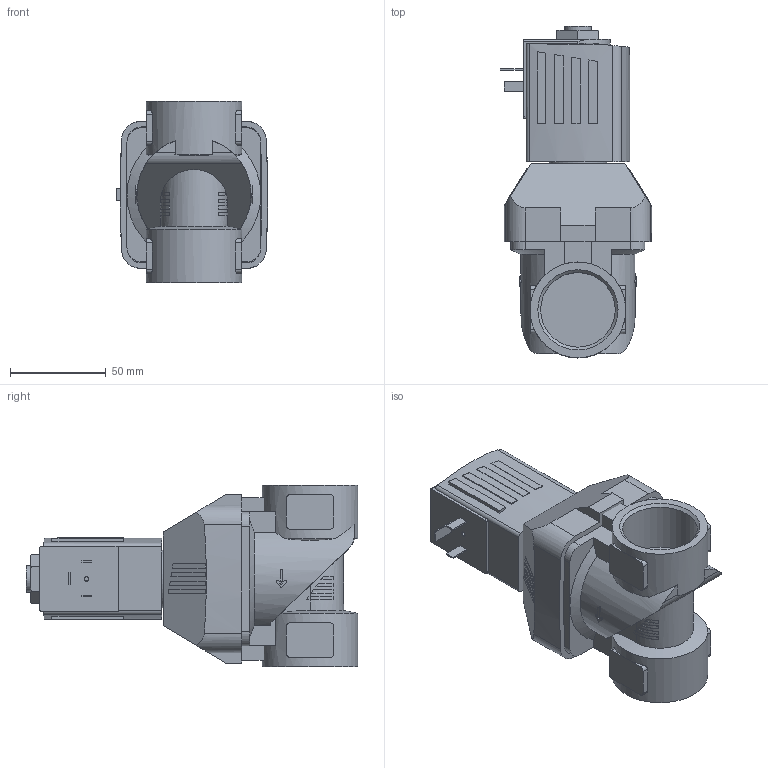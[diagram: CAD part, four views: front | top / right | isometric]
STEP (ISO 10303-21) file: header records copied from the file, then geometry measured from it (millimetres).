
FILE_DESCRIPTION( ( 'STEP AP214' ), '1' );
FILE_NAME( 'p:/temp/worker_29/temp/app_47_02018110115542181222190192d056f_000000_00_00_000000/format_0/6213-221729-2_2-Way-Solenoid-Valve_for_fluids.stp', '2018-11-01T14:54:22', ( '' ), ( '' ), ' ', 'PARTsolutions', ' ' );
FILE_SCHEMA( ( 'AUTOMOTIVE_DESIGN { 1 0 10303 214 1 1 1 1 }' ) );
Length unit declared in the file: millimetre
Products named in the file (4): 6213-221729-2/2-Way-Solenoid-Valve for fluids; HI_AC10ex-42SG=k-Plan-Coil; _6213-25U5-2/2-Wege-Magnetventil-feur-Fluessigkeiten-und-Gase; HI_6213-25G1_1/4MS-Gehaeuse-
Assembly tree (3 placements, depth 2):
  6213-221729-2/2-Way-Solenoid-Valve for fluids
    HI_AC10ex-42SG=k-Plan-Coil
    _6213-25U5-2/2-Wege-Magnetventil-feur-Fluessigkeiten-und-Gase
    HI_6213-25G1_1/4MS-Gehaeuse-
Bounding box: 79 x 173.35 x 95 mm (x, y, z)
Volume: 511826.7 mm3; surface area: 74030.5 mm2
Topology: 3 solids, 3 shells, 350 faces, 919 edges, 606 vertices
Faces by surface type: plane 260, cylinder 75, cone 15
Full cylindrical faces by diameter (mm): 2.013 x1, 14 x1, 30.3 x1, 38.952 x2, 50 x2
Entity records: 13951 total; most frequent: CARTESIAN_POINT 2387, ORIENTED_EDGE 1810, DIRECTION 1791, EDGE_CURVE 905, VERTEX_POINT 603, LINE 601, VECTOR 601, AXIS2_PLACEMENT_3D 595
